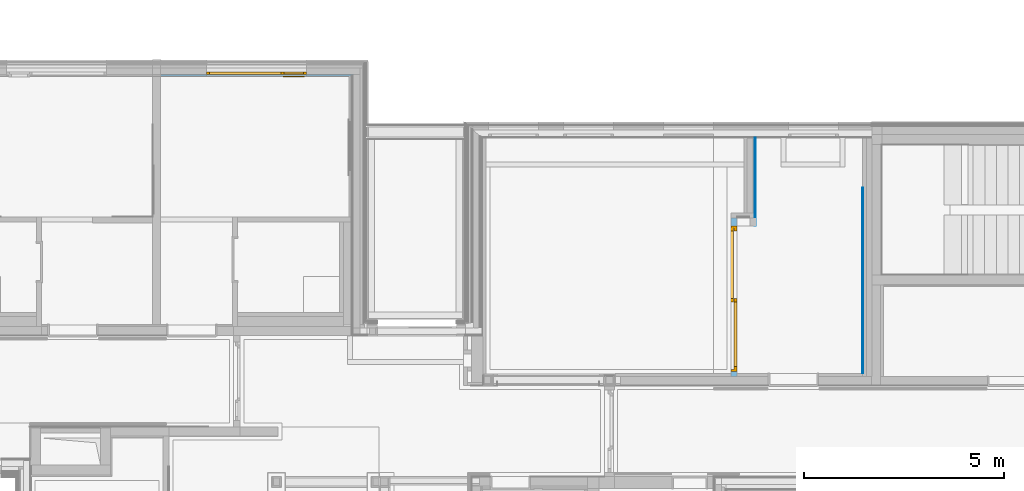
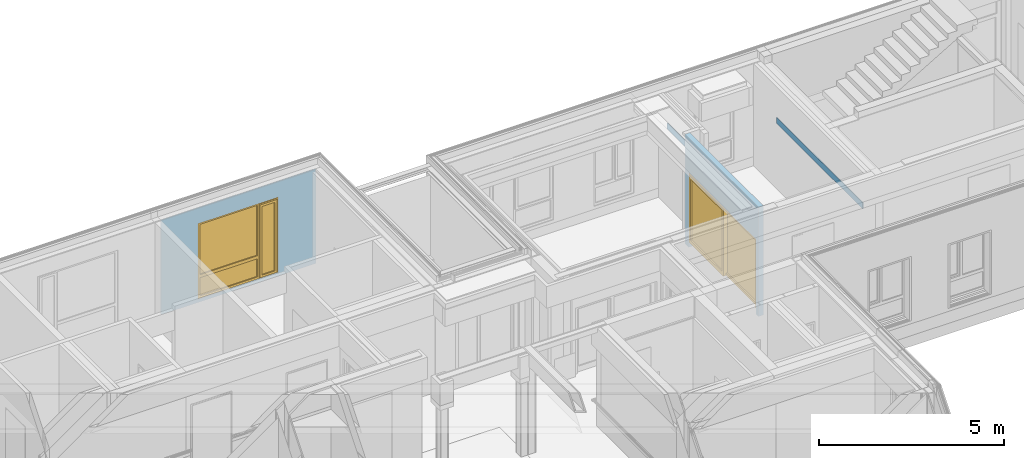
# One storey, part 114 of 207: 2 walls, 1 door, 1 window, 2 openings, plus 2 elements that do not belong to this part.
"""IFC4 building model written with IfcOpenShell, lengths in metres."""

from ifc_helpers import new_model, entity, si_unit, converted_unit, derived_unit, frame, frame_2d, origin, origin_with_axes, place, context, subcontext, project, spatial, polyline, rectangle, outline, extrude, closed_shell, open_shell, faceted_brep, surface_model, source, transform, mapped, material, element, fill, save


model = new_model("IFC4")

# Units and contexts
model_context = context("Model", 3, precision=1e-05, world=origin())
body_context = subcontext(model_context, "Body", "Model", "MODEL_VIEW")
ifc_project = project(units=[si_unit("LENGTHUNIT", "METRE"), si_unit("AREAUNIT", "SQUARE_METRE"), si_unit("VOLUMEUNIT", "CUBIC_METRE"), si_unit("MASSUNIT", "GRAM", prefix="KILO"), converted_unit("PLANEANGLEUNIT", "DEGREE", entity("IfcPlaneAngleMeasure", 0.0174532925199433), si_unit("PLANEANGLEUNIT", "RADIAN"), dimensions=[0, 0, 0, 0, 0, 0, 0]), derived_unit("THERMALTRANSMITTANCEUNIT", [(si_unit("POWERUNIT", "WATT"), 1), (si_unit("THERMODYNAMICTEMPERATUREUNIT", "KELVIN"), -1), (si_unit("LENGTHUNIT", "METRE"), -2)]), derived_unit("VOLUMETRICFLOWRATEUNIT", [(si_unit("LENGTHUNIT", "METRE"), 3), (converted_unit("TIMEUNIT", "hour", entity("IfcTimeMeasure", 3600.0), si_unit("TIMEUNIT", "SECOND"), dimensions=[0, 0, 1, 0, 0, 0, 0]), -1), (si_unit("LENGTHUNIT", "METRE"), -1)])], contexts=[model_context])

# Site, building, storey
site_placement = place(None, origin())
site = spatial("IfcSite", under=ifc_project, at=site_placement, Name="Psychiatrie Neubau Wunstorf", CompositionType="ELEMENT")
building_placement = place(site_placement, origin())
building = spatial("IfcBuilding", under=site, at=building_placement, Name="Neubau H2 Stationsgebäude", CompositionType="ELEMENT")
storey_placement = place(building_placement, frame((0.0, 0.0, -0.2)))
storey = spatial("IfcBuildingStorey", under=building, at=storey_placement, Name="H2 Ebene 0", CompositionType="ELEMENT", Elevation=-0.2)

# Wall, opening, window
ifc_material_1 = material(Name="WA-LB")
wall_1_placement = place(storey_placement, frame((30.1, 30.614, 0.5)))
wall_1 = element("IfcWall", 1, at=wall_1_placement, inside=storey, material=ifc_material_1, context=body_context, shape_type="SweptSolid", body=[
    extrude(rectangle(XDim=4.825, YDim=0.036, at=frame_2d((2.4125, 0.018), x_axis=(1.0, 0.0))), origin_with_axes(), (0.0, 0.0, 1.0), 3.1),
])
opening_1_placement = place(wall_1_placement, frame((1.14999999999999, 0.0, 0.1), z_axis=(0.0, 1.0, 0.0), x_axis=(0.0, 0.0, 1.0)))
opening_1 = element("IfcOpeningElement", 2, at=opening_1_placement, cuts=wall_1, Name="Fensteröffnung", ObjectType="Opening", context=body_context, shape_type="SweptSolid", body=[
    extrude(outline(polyline([(2.5, 2.5), (2.5, 0.0), (0.0, 0.0), (0.0, 2.5), (2.5, 2.5)])), origin_with_axes(), (0.0, 0.0, 1.0), 0.036),
])
shared_shape_1 = source(origin_with_axes(), body_context, "Body", "SurfaceModel", [
    surface_model("IfcShellBasedSurfaceModel", [(2.5, 0.0, 2.5), (2.5, 0.0, 0.0), (2.43, 0.0, 0.0), (2.43, 0.0, 2.5), (2.5, 0.0699999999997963, 0.0), (2.5, 0.0699999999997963, 2.5), (2.43, 0.0699999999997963, 2.5), (2.43, 0.0699999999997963, 0.0)], [closed_shell([[[0, 1, 2, 3]], [[4, 5, 6, 7]], [[1, 0, 5, 4]], [[2, 1, 4, 7]], [[3, 2, 7, 6]], [[0, 3, 6, 5]]], orient=[[False], [False], [False], [False], [False], [False]])]),
    surface_model("IfcShellBasedSurfaceModel", [(0.0700000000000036, 0.0, 2.5), (0.0700000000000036, 0.0, 0.0), (0.0, 0.0, 0.0), (0.0, 0.0, 2.5), (0.0700000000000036, 0.0699999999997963, 0.0), (0.0700000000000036, 0.0699999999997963, 2.5), (0.0, 0.0699999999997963, 2.5), (0.0, 0.0699999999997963, 0.0)], [closed_shell([[[0, 1, 2, 3]], [[4, 5, 6, 7]], [[1, 0, 5, 4]], [[2, 1, 4, 7]], [[3, 2, 7, 6]], [[0, 3, 6, 5]]], orient=[[False], [False], [False], [False], [False], [False]])]),
    surface_model("IfcShellBasedSurfaceModel", [(2.43, 0.0, 0.07), (2.43, 0.0, 0.0), (0.0700000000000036, 0.0, 0.0), (0.0700000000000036, 0.0, 0.07), (2.43, 0.0699999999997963, 0.0), (2.43, 0.0699999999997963, 0.07), (0.0700000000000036, 0.0699999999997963, 0.07), (0.0700000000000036, 0.0699999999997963, 0.0)], [closed_shell([[[0, 1, 2, 3]], [[4, 5, 6, 7]], [[1, 0, 5, 4]], [[2, 1, 4, 7]], [[3, 2, 7, 6]], [[0, 3, 6, 5]]], orient=[[False], [False], [False], [False], [False], [False]])]),
    surface_model("IfcShellBasedSurfaceModel", [(2.43, 0.0, 2.5), (2.43, 0.0, 2.43), (0.0700000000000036, 0.0, 2.43), (0.0700000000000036, 0.0, 2.5), (2.43, 0.0699999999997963, 2.43), (2.43, 0.0699999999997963, 2.5), (0.0700000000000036, 0.0699999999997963, 2.5), (0.0700000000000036, 0.0699999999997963, 2.43)], [closed_shell([[[0, 1, 2, 3]], [[4, 5, 6, 7]], [[1, 0, 5, 4]], [[2, 1, 4, 7]], [[3, 2, 7, 6]], [[0, 3, 6, 5]]], orient=[[False], [False], [False], [False], [False], [False]])]),
    surface_model("IfcShellBasedSurfaceModel", [(1.934285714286, 0.0, 2.43), (1.934285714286, 0.0, 0.07), (1.864285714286, 0.0, 0.07), (1.864285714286, 0.0, 2.43), (1.934285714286, 0.0699999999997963, 0.07), (1.934285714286, 0.0699999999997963, 2.43), (1.864285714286, 0.0699999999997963, 2.43), (1.864285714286, 0.0699999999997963, 0.07)], [closed_shell([[[0, 1, 2, 3]], [[4, 5, 6, 7]], [[1, 0, 5, 4]], [[2, 1, 4, 7]], [[3, 2, 7, 6]], [[0, 3, 6, 5]]], orient=[[False], [False], [False], [False], [False], [False]])]),
    surface_model("IfcShellBasedSurfaceModel", [(2.45, -0.0500000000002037, 2.45), (2.45, -0.0500000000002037, 0.05), (2.38, -0.0500000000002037, 0.05), (2.38, -0.0500000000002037, 2.45), (2.45, 0.0199999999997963, 0.05), (2.45, 0.0199999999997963, 2.45), (2.38, 0.0199999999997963, 2.45), (2.38, 0.0199999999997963, 0.05)], [closed_shell([[[0, 1, 2, 3]], [[4, 5, 6, 7]], [[1, 0, 5, 4]], [[2, 1, 4, 7]], [[3, 2, 7, 6]], [[0, 3, 6, 5]]], orient=[[False], [False], [False], [False], [False], [False]])]),
    surface_model("IfcShellBasedSurfaceModel", [(1.984285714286, -0.0500000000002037, 2.45), (1.984285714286, -0.0500000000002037, 0.05), (1.914285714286, -0.0500000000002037, 0.05), (1.914285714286, -0.0500000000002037, 2.45), (1.984285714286, 0.0199999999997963, 0.05), (1.984285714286, 0.0199999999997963, 2.45), (1.914285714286, 0.0199999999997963, 2.45), (1.914285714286, 0.0199999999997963, 0.05)], [closed_shell([[[0, 1, 2, 3]], [[4, 5, 6, 7]], [[1, 0, 5, 4]], [[2, 1, 4, 7]], [[3, 2, 7, 6]], [[0, 3, 6, 5]]], orient=[[False], [False], [False], [False], [False], [False]])]),
    surface_model("IfcShellBasedSurfaceModel", [(2.38, -0.0500000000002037, 0.12), (2.38, -0.0500000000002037, 0.05), (1.984285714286, -0.0500000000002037, 0.05), (1.984285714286, -0.0500000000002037, 0.12), (2.38, 0.0199999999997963, 0.05), (2.38, 0.0199999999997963, 0.12), (1.984285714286, 0.0199999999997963, 0.12), (1.984285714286, 0.0199999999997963, 0.05)], [closed_shell([[[0, 1, 2, 3]], [[4, 5, 6, 7]], [[1, 0, 5, 4]], [[2, 1, 4, 7]], [[3, 2, 7, 6]], [[0, 3, 6, 5]]], orient=[[False], [False], [False], [False], [False], [False]])]),
    surface_model("IfcShellBasedSurfaceModel", [(2.38, -0.0500000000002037, 2.45), (2.38, -0.0500000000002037, 2.38), (1.984285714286, -0.0500000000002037, 2.38), (1.984285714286, -0.0500000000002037, 2.45), (2.38, 0.0199999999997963, 2.38), (2.38, 0.0199999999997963, 2.45), (1.984285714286, 0.0199999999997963, 2.45), (1.984285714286, 0.0199999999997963, 2.38)], [closed_shell([[[0, 1, 2, 3]], [[4, 5, 6, 7]], [[1, 0, 5, 4]], [[2, 1, 4, 7]], [[3, 2, 7, 6]], [[0, 3, 6, 5]]], orient=[[False], [False], [False], [False], [False], [False]])]),
    surface_model("IfcShellBasedSurfaceModel", [(1.864285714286, 0.0, 0.77), (1.864285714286, 0.0, 0.67), (0.0700000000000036, 0.0, 0.67), (0.0700000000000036, 0.0, 0.77), (1.864285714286, 0.0699999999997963, 0.67), (1.864285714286, 0.0699999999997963, 0.77), (0.0700000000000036, 0.0699999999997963, 0.77), (0.0700000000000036, 0.0699999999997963, 0.67)], [closed_shell([[[0, 1, 2, 3]], [[4, 5, 6, 7]], [[1, 0, 5, 4]], [[2, 1, 4, 7]], [[3, 2, 7, 6]], [[0, 3, 6, 5]]], orient=[[False], [False], [False], [False], [False], [False]])]),
    surface_model("IfcShellBasedSurfaceModel", [(2.38, -0.0150000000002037, 0.12), (1.984285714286, -0.0150000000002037, 0.12), (1.984285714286, -0.0150000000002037, 2.38), (2.38, -0.0150000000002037, 2.38)], [open_shell([[[0, 1, 2, 3]]], orient=[[False]])]),
    surface_model("IfcShellBasedSurfaceModel", [(1.864285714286, 0.0349999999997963, 0.07), (0.0700000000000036, 0.0349999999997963, 0.07), (0.0700000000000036, 0.0349999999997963, 0.67), (1.864285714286, 0.0349999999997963, 0.67)], [open_shell([[[0, 1, 2, 3]]], orient=[[False]])]),
    surface_model("IfcShellBasedSurfaceModel", [(1.864285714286, 0.0349999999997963, 0.77), (0.0700000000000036, 0.0349999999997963, 0.77), (0.0700000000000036, 0.0349999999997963, 2.43), (1.864285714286, 0.0349999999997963, 2.43)], [open_shell([[[0, 1, 2, 3]]], orient=[[False]])]),
])
window_placement = place(opening_1_placement, frame((0.0, 0.0, 0.03), z_axis=(1.0, 0.0, 0.0), x_axis=(0.0, 1.0, 0.0)))
window = element("IfcWindow", 3, at=window_placement, inside=storey, Name="Fenster", OverallHeight=2.5, OverallWidth=2.5, PartitioningType="USERDEFINED", PredefinedType="WINDOW", context=body_context, shape_type="MappedRepresentation", body=[
    mapped(shared_shape_1, transform((0.0, 0.0, 0.0), x_axis=(1.0, 0.0, 0.0), y_axis=(0.0, 1.0, 0.0), z_axis=(0.0, 0.0, 1.0), scale=1.0)),
])
fill(opening_1, window)

# Walls
wall_2_placement = place(storey_placement, frame((44.975, 26.8639996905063, 2.35)))
element("IfcWall", 4, at=wall_2_placement, inside=storey, Name="WV 1.1", context=body_context, shape_type="Brep", body=[
    faceted_brep([(0.025, 2.2, 0.0), (0.0, 2.2, 0.0), (0.0, 0.0, 0.0), (0.025, 0.0, 0.0), (0.0, 2.2, 0.2), (0.025, 2.2, 0.2), (0.025, 0.0, 0.2), (0.0, 0.0, 0.2)], [[[0, 1, 2, 3]], [[4, 5, 6, 7]], [[1, 0, 5, 4]], [[2, 1, 4, 7]], [[3, 2, 7, 6]], [[0, 3, 6, 5]]], orient=[[False], [False], [False], [False], [False], [False]]),
])
wall_3_placement = place(storey_placement, frame((47.664, 23.1709999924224, 2.35)))
element("IfcWall", 5, at=wall_3_placement, inside=storey, Name="WV 1.1", context=body_context, shape_type="Brep", body=[
    faceted_brep([(0.025, 4.65, 0.0), (0.0, 4.65, 0.0), (0.0, 0.0, 0.0), (0.025, 0.0, 0.0), (0.0, 4.65, 0.2), (0.025, 4.65, 0.2), (0.025, 0.0, 0.2), (0.0, 0.0, 0.2)], [[[0, 1, 2, 3]], [[4, 5, 6, 7]], [[1, 0, 5, 4]], [[2, 1, 4, 7]], [[3, 2, 7, 6]], [[0, 3, 6, 5]]], orient=[[False], [False], [False], [False], [False], [False]]),
])

# Wall, opening, door
ifc_material_2 = material(Name="WI-LB")
wall_4_placement = place(storey_placement, frame((44.525, 23.0959999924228, 0.0), z_axis=(0.0, 0.0, 1.0), x_axis=(0.0, 1.0, 0.0)))
wall_4 = element("IfcWall", 6, at=wall_4_placement, inside=storey, material=ifc_material_2, context=body_context, shape_type="SweptSolid", body=[
    extrude(rectangle(XDim=3.96799969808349, YDim=0.15, at=frame_2d((1.98399984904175, 0.075), x_axis=(1.0, 0.0))), origin_with_axes(), (0.0, 0.0, 1.0), 3.6),
])
opening_2_placement = place(wall_4_placement, frame((0.12499999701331, 0.0, 0.0), z_axis=(0.0, 1.0, 0.0), x_axis=(0.0, 0.0, 1.0)))
opening_2 = element("IfcOpeningElement", 7, at=opening_2_placement, cuts=wall_4, Name="Türöffnung", ObjectType="Opening", context=body_context, shape_type="SweptSolid", body=[
    extrude(outline(polyline([(2.46, 3.64), (2.46, 0.0), (0.0, 0.0), (0.0, 3.64), (2.46, 3.64)])), origin_with_axes(), (0.0, 0.0, 1.0), 0.15),
])
ifc_material_3 = material(Name="TI-1F-AG-S")
shared_shape_2 = source(origin_with_axes(), body_context, "Body", "Brep", [
    faceted_brep([(-0.100000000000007, 0.0950000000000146, 0.0), (0.0, 0.0950000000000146, 0.0), (0.0, 0.195000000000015, 0.0), (-0.100000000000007, 0.195000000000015, 0.0), (-0.100000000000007, 0.195000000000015, 3.6), (0.0, 0.195000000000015, 3.6), (0.0, 0.0950000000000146, 3.6), (-0.100000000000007, 0.0950000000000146, 3.6)], [[[0, 1, 2, 3]], [[4, 5, 6, 7]], [[3, 4, 7, 0]], [[2, 5, 4, 3]], [[1, 6, 5, 2]], [[0, 7, 6, 1]]], orient=[[False], [False], [False], [False], [False], [False]]),
    faceted_brep([(3.63999999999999, 0.0950000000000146, 0.0), (3.73999999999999, 0.0950000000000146, 0.0), (3.73999999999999, 0.195000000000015, 0.0), (3.63999999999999, 0.195000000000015, 0.0), (3.63999999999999, 0.195000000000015, 3.6), (3.73999999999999, 0.195000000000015, 3.6), (3.73999999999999, 0.0950000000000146, 3.6), (3.63999999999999, 0.0950000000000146, 3.6)], [[[0, 1, 2, 3]], [[4, 5, 6, 7]], [[3, 4, 7, 0]], [[2, 5, 4, 3]], [[1, 6, 5, 2]], [[0, 7, 6, 1]]], orient=[[False], [False], [False], [False], [False], [False]]),
    faceted_brep([(0.0, 0.0950000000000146, 2.46), (3.63999999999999, 0.0950000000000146, 2.46), (3.63999999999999, 0.195000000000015, 2.46), (0.0, 0.195000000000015, 2.46), (0.0, 0.195000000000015, 2.56), (3.63999999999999, 0.195000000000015, 2.56), (3.63999999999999, 0.0950000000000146, 2.56), (0.0, 0.0950000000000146, 2.56)], [[[0, 1, 2, 3]], [[4, 5, 6, 7]], [[3, 4, 7, 0]], [[2, 5, 4, 3]], [[1, 6, 5, 2]], [[0, 7, 6, 1]]], orient=[[False], [False], [False], [False], [False], [False]]),
])
shared_shape_3 = source(origin_with_axes(), body_context, "Body", "SurfaceModel", [
    surface_model("IfcShellBasedSurfaceModel", [(3.63999999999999, 0.220000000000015, 2.46), (3.58999999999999, 0.220000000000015, 2.46), (3.58999999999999, 0.220000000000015, 0.2), (3.63999999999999, 0.220000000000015, 0.2), (3.63999999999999, 0.0700000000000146, 0.2), (3.58999999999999, 0.0700000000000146, 0.2), (3.58999999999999, 0.0700000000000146, 2.46), (3.63999999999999, 0.0700000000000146, 2.46)], [closed_shell([[[0, 1, 2, 3]], [[4, 5, 6, 7]], [[3, 4, 7, 0]], [[2, 5, 4, 3]], [[1, 6, 5, 2]], [[0, 7, 6, 1]]], orient=[[False], [False], [False], [False], [False], [False]])]),
    surface_model("IfcShellBasedSurfaceModel", [(0.0499999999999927, 0.220000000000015, 2.46), (0.0, 0.220000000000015, 2.46), (0.0, 0.220000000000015, 0.2), (0.0499999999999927, 0.220000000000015, 0.2), (0.0499999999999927, 0.0700000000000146, 0.2), (0.0, 0.0700000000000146, 0.2), (0.0, 0.0700000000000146, 2.46), (0.0499999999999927, 0.0700000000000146, 2.46)], [closed_shell([[[0, 1, 2, 3]], [[4, 5, 6, 7]], [[3, 4, 7, 0]], [[2, 5, 4, 3]], [[1, 6, 5, 2]], [[0, 7, 6, 1]]], orient=[[False], [False], [False], [False], [False], [False]])]),
    surface_model("IfcShellBasedSurfaceModel", [(3.58999999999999, 0.220000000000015, 2.46), (0.0499999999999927, 0.220000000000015, 2.46), (0.0499999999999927, 0.220000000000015, 2.41), (3.58999999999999, 0.220000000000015, 2.41), (3.58999999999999, 0.0700000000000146, 2.41), (0.0499999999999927, 0.0700000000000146, 2.41), (0.0499999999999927, 0.0700000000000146, 2.46), (3.58999999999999, 0.0700000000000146, 2.46)], [closed_shell([[[0, 1, 2, 3]], [[4, 5, 6, 7]], [[3, 4, 7, 0]], [[2, 5, 4, 3]], [[1, 6, 5, 2]], [[0, 7, 6, 1]]], orient=[[False], [False], [False], [False], [False], [False]])]),
    surface_model("IfcShellBasedSurfaceModel", [(3.58999999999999, 0.150000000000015, 2.41), (3.50999999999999, 0.150000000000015, 2.41), (3.50999999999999, 0.150000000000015, 0.2), (3.58999999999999, 0.150000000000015, 0.2), (3.58999999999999, 0.0700000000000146, 0.2), (3.50999999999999, 0.0700000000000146, 0.2), (3.50999999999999, 0.0700000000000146, 2.41), (3.58999999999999, 0.0700000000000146, 2.41)], [closed_shell([[[0, 1, 2, 3]], [[4, 5, 6, 7]], [[3, 4, 7, 0]], [[2, 5, 4, 3]], [[1, 6, 5, 2]], [[0, 7, 6, 1]]], orient=[[False], [False], [False], [False], [False], [False]])]),
    surface_model("IfcShellBasedSurfaceModel", [(0.129999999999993, 0.150000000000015, 2.41), (0.0499999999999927, 0.150000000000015, 2.41), (0.0499999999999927, 0.150000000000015, 0.2), (0.129999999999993, 0.150000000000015, 0.2), (0.129999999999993, 0.0700000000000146, 0.2), (0.0499999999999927, 0.0700000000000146, 0.2), (0.0499999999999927, 0.0700000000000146, 2.41), (0.129999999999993, 0.0700000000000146, 2.41)], [closed_shell([[[0, 1, 2, 3]], [[4, 5, 6, 7]], [[3, 4, 7, 0]], [[2, 5, 4, 3]], [[1, 6, 5, 2]], [[0, 7, 6, 1]]], orient=[[False], [False], [False], [False], [False], [False]])]),
    surface_model("IfcShellBasedSurfaceModel", [(3.50999999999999, 0.150000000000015, 2.41), (0.129999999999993, 0.150000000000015, 2.41), (0.129999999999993, 0.150000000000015, 2.33), (3.50999999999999, 0.150000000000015, 2.33), (3.50999999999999, 0.0700000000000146, 2.33), (0.129999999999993, 0.0700000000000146, 2.33), (0.129999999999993, 0.0700000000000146, 2.41), (3.50999999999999, 0.0700000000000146, 2.41)], [closed_shell([[[0, 1, 2, 3]], [[4, 5, 6, 7]], [[3, 4, 7, 0]], [[2, 5, 4, 3]], [[1, 6, 5, 2]], [[0, 7, 6, 1]]], orient=[[False], [False], [False], [False], [False], [False]])]),
    surface_model("IfcShellBasedSurfaceModel", [(3.58999999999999, 0.240000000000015, 2.41), (3.50999999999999, 0.240000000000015, 2.41), (3.50999999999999, 0.240000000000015, 0.2), (3.58999999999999, 0.240000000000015, 0.2), (3.58999999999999, 0.160000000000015, 0.2), (3.50999999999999, 0.160000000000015, 0.2), (3.50999999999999, 0.160000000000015, 2.41), (3.58999999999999, 0.160000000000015, 2.41)], [closed_shell([[[0, 1, 2, 3]], [[4, 5, 6, 7]], [[3, 4, 7, 0]], [[2, 5, 4, 3]], [[1, 6, 5, 2]], [[0, 7, 6, 1]]], orient=[[False], [False], [False], [False], [False], [False]])]),
    surface_model("IfcShellBasedSurfaceModel", [(1.82049999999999, 0.240000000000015, 2.41), (1.74049999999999, 0.240000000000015, 2.41), (1.74049999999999, 0.240000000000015, 0.2), (1.82049999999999, 0.240000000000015, 0.2), (1.82049999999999, 0.160000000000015, 0.2), (1.74049999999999, 0.160000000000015, 0.2), (1.74049999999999, 0.160000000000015, 2.41), (1.82049999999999, 0.160000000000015, 2.41)], [closed_shell([[[0, 1, 2, 3]], [[4, 5, 6, 7]], [[3, 4, 7, 0]], [[2, 5, 4, 3]], [[1, 6, 5, 2]], [[0, 7, 6, 1]]], orient=[[False], [False], [False], [False], [False], [False]])]),
    surface_model("IfcShellBasedSurfaceModel", [(3.50999999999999, 0.240000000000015, 0.32), (1.82049999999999, 0.240000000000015, 0.32), (1.82049999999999, 0.240000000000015, 0.2), (3.50999999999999, 0.240000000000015, 0.2), (3.50999999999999, 0.160000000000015, 0.2), (1.82049999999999, 0.160000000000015, 0.2), (1.82049999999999, 0.160000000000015, 0.32), (3.50999999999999, 0.160000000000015, 0.32)], [closed_shell([[[0, 1, 2, 3]], [[4, 5, 6, 7]], [[3, 4, 7, 0]], [[2, 5, 4, 3]], [[1, 6, 5, 2]], [[0, 7, 6, 1]]], orient=[[False], [False], [False], [False], [False], [False]])]),
    surface_model("IfcShellBasedSurfaceModel", [(3.50999999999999, 0.240000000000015, 2.41), (1.82049999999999, 0.240000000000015, 2.41), (1.82049999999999, 0.240000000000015, 2.33), (3.50999999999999, 0.240000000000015, 2.33), (3.50999999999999, 0.160000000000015, 2.33), (1.82049999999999, 0.160000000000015, 2.33), (1.82049999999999, 0.160000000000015, 2.41), (3.50999999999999, 0.160000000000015, 2.41)], [closed_shell([[[0, 1, 2, 3]], [[4, 5, 6, 7]], [[3, 4, 7, 0]], [[2, 5, 4, 3]], [[1, 6, 5, 2]], [[0, 7, 6, 1]]], orient=[[False], [False], [False], [False], [False], [False]])]),
    surface_model("IfcShellBasedSurfaceModel", [(1.81949999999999, 0.150000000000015, 2.33), (1.73949999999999, 0.150000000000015, 2.33), (1.73949999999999, 0.150000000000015, 0.2), (1.81949999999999, 0.150000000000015, 0.2), (1.81949999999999, 0.0700000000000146, 0.2), (1.73949999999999, 0.0700000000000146, 0.2), (1.73949999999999, 0.0700000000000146, 2.33), (1.81949999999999, 0.0700000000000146, 2.33)], [closed_shell([[[0, 1, 2, 3]], [[4, 5, 6, 7]], [[3, 4, 7, 0]], [[2, 5, 4, 3]], [[1, 6, 5, 2]], [[0, 7, 6, 1]]], orient=[[False], [False], [False], [False], [False], [False]])]),
    surface_model("IfcShellBasedSurfaceModel", [(1.73949999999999, 0.150000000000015, 0.28), (0.129999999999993, 0.150000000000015, 0.28), (0.129999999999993, 0.150000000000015, 0.2), (1.73949999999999, 0.150000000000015, 0.2), (1.73949999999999, 0.0700000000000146, 0.2), (0.129999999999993, 0.0700000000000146, 0.2), (0.129999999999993, 0.0700000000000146, 0.28), (1.73949999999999, 0.0700000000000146, 0.28)], [closed_shell([[[0, 1, 2, 3]], [[4, 5, 6, 7]], [[3, 4, 7, 0]], [[2, 5, 4, 3]], [[1, 6, 5, 2]], [[0, 7, 6, 1]]], orient=[[False], [False], [False], [False], [False], [False]])]),
    surface_model("IfcShellBasedSurfaceModel", [(1.73949999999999, 0.110000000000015, 0.28), (1.73949999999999, 0.110000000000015, 2.33), (0.129999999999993, 0.110000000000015, 2.33), (0.129999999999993, 0.110000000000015, 0.28)], [open_shell([[[0, 1, 2, 3]]], orient=[[False]])]),
    surface_model("IfcShellBasedSurfaceModel", [(3.50999999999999, 0.200000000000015, 0.32), (3.50999999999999, 0.200000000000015, 2.33), (1.82049999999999, 0.200000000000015, 2.33), (1.82049999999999, 0.200000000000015, 0.32)], [open_shell([[[0, 1, 2, 3]]], orient=[[False]])]),
])
door_placement = place(opening_2_placement, frame((0.0, 0.0, -0.07), z_axis=(1.0, 0.0, 0.0), x_axis=(0.0, 1.0, 0.0)))
door = element("IfcDoor", 8, at=door_placement, inside=storey, material=ifc_material_3, Name="SMT", OperationType="USERDEFINED", OverallHeight=2.46, OverallWidth=3.64, PredefinedType="DOOR", context=body_context, shape_type="MappedRepresentation", body=[
    mapped(shared_shape_2, transform((0.0, 0.0, 0.0), x_axis=(1.0, 0.0, 0.0), y_axis=(0.0, 1.0, 0.0), z_axis=(0.0, 0.0, 1.0), scale=1.0)),
    mapped(shared_shape_3, transform((0.0, 0.0, 0.0), x_axis=(1.0, 0.0, 0.0), y_axis=(0.0, 1.0, 0.0), z_axis=(0.0, 0.0, 1.0), scale=1.0)),
])
fill(opening_2, door)

save(model, "model.ifc")
